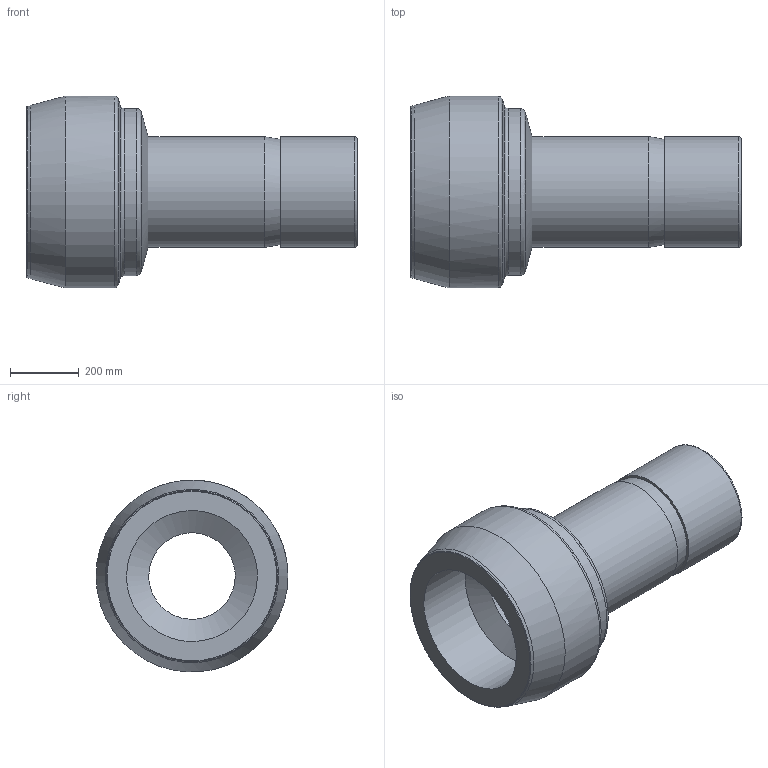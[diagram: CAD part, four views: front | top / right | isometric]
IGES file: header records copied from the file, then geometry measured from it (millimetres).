
Global section: file name: SRPC-12-8; native system: Autodesk Inventor 2016; preprocessor: unknown; author: DESIGNPC2; date: 20151219.133958; units: millimetre
Bounding box: 962.66 x 558.86 x 558.44 mm (x, y, z)
Volume: 67268768.7 mm3; surface area: 2310833 mm2
Topology: 1 solids, 1 shells, 20 faces, 65 edges, 48 vertices
Faces by surface type: bspline 20
